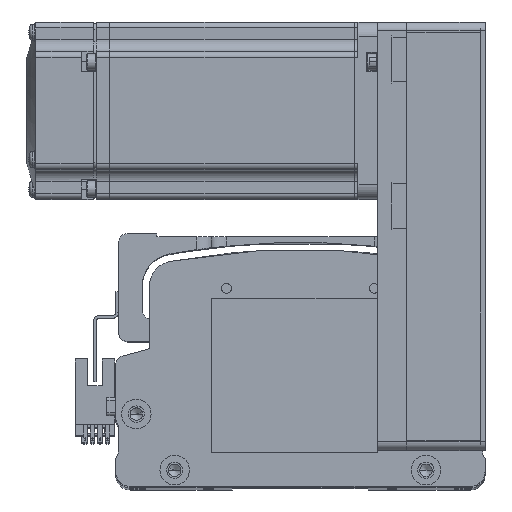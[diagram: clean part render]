
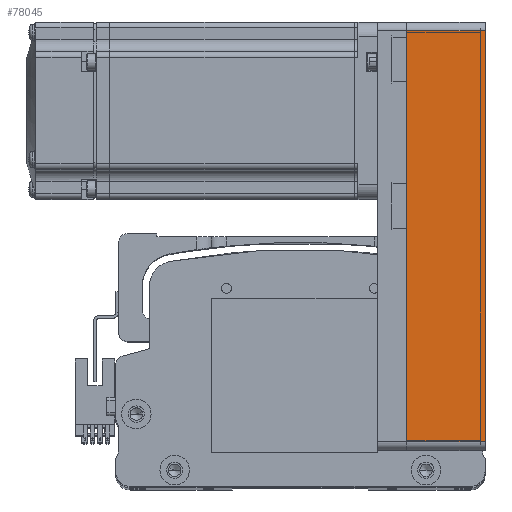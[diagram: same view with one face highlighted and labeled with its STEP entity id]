
A CAD part, top view. The second image highlights one B-rep face of the part: STEP entity #78045.
In plain terms, the highlighted planar face has unit normal (0, 0, 1) as drawn and (0, 1, 0) by its records, which use the part's own axes.
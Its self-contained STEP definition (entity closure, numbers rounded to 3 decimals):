
#4899 = CARTESIAN_POINT ( 'NONE',  ( -69.5, 30., 26.5 ) ) ;
#7031 = EDGE_CURVE ( 'NONE', #16288, #44702, #38765, .T. ) ;
#7854 = CARTESIAN_POINT ( 'NONE',  ( 69.5, 30., 0. ) ) ;
#10640 = ORIENTED_EDGE ( 'NONE', *, *, #7031, .T. ) ;
#11253 = AXIS2_PLACEMENT_3D ( 'NONE', #22931, #66303, #29206 ) ;
#16288 = VERTEX_POINT ( 'NONE', #44830 ) ;
#17725 = CARTESIAN_POINT ( 'NONE',  ( -69.5, 30., 0. ) ) ;
#22931 = CARTESIAN_POINT ( 'NONE',  ( 72.5, 30., 26.5 ) ) ;
#25486 = LINE ( 'NONE', #30334, #58459 ) ;
#27145 = VERTEX_POINT ( 'NONE', #17725 ) ;
#29206 = DIRECTION ( 'NONE',  ( 1., 0., 0. ) ) ;
#29900 = EDGE_CURVE ( 'NONE', #44702, #27145, #25486, .T. ) ;
#30334 = CARTESIAN_POINT ( 'NONE',  ( 72.5, 30., 0. ) ) ;
#30623 = DIRECTION ( 'NONE',  ( 0., 0., -1. ) ) ;
#33049 = ORIENTED_EDGE ( 'NONE', *, *, #35839, .T. ) ;
#34795 = DIRECTION ( 'NONE',  ( 0., 0., 1. ) ) ;
#35190 = PLANE ( 'NONE',  #11253 ) ;
#35839 = EDGE_CURVE ( 'NONE', #27145, #42837, #76246, .T. ) ;
#37430 = VECTOR ( 'NONE', #61189, 1000. ) ;
#38765 = LINE ( 'NONE', #67722, #69764 ) ;
#42837 = VERTEX_POINT ( 'NONE', #4899 ) ;
#44702 = VERTEX_POINT ( 'NONE', #7854 ) ;
#44830 = CARTESIAN_POINT ( 'NONE',  ( 69.5, 30., 26.5 ) ) ;
#45244 = VECTOR ( 'NONE', #34795, 1000. ) ;
#46107 = ORIENTED_EDGE ( 'NONE', *, *, #29900, .T. ) ;
#51331 = ORIENTED_EDGE ( 'NONE', *, *, #52503, .F. ) ;
#52503 = EDGE_CURVE ( 'NONE', #16288, #42837, #53919, .T. ) ;
#53919 = LINE ( 'NONE', #79605, #37430 ) ;
#58459 = VECTOR ( 'NONE', #61207, 1000. ) ;
#61189 = DIRECTION ( 'NONE',  ( -1., 0., 0. ) ) ;
#61207 = DIRECTION ( 'NONE',  ( -1., 0., 0. ) ) ;
#65635 = CARTESIAN_POINT ( 'NONE',  ( -69.5, 30., 26.5 ) ) ;
#66303 = DIRECTION ( 'NONE',  ( 0., -1., 0. ) ) ;
#67722 = CARTESIAN_POINT ( 'NONE',  ( 69.5, 30., 26.5 ) ) ;
#69764 = VECTOR ( 'NONE', #30623, 1000. ) ;
#70545 = EDGE_LOOP ( 'NONE', ( #46107, #33049, #51331, #10640 ) ) ;
#74493 = FACE_OUTER_BOUND ( 'NONE', #70545, .T. ) ;
#76246 = LINE ( 'NONE', #65635, #45244 ) ;
#78045 = ADVANCED_FACE ( 'NONE', ( #74493 ), #35190, .F. ) ;
#79605 = CARTESIAN_POINT ( 'NONE',  ( 72.5, 30., 26.5 ) ) ;
